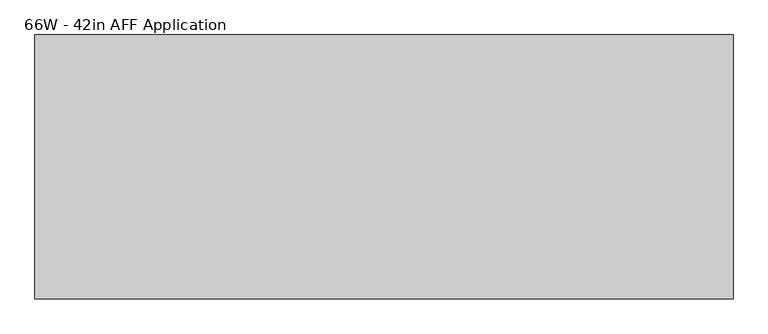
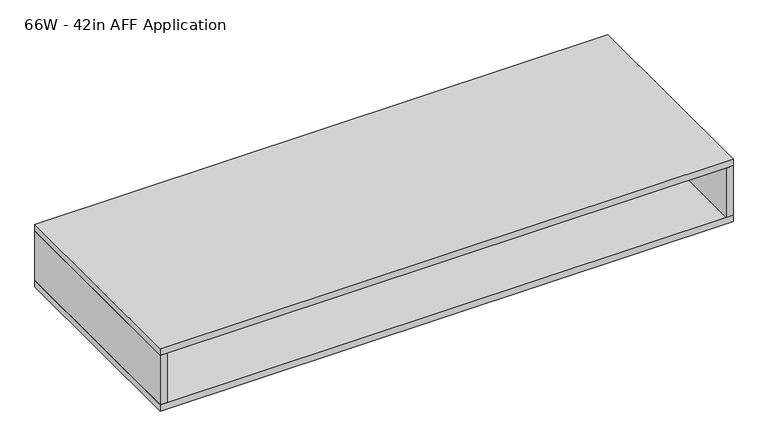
"""IFC4 building model written with IfcOpenShell, lengths in millimetres: furniture geometry, Steelcase - Duo Storage - For Use with Top Cap Mounted Storage - Slim : 66W - 42in AFF Application."""

import ifcopenshell
import ifcopenshell.guid

model = None  # the IFC model being written
_history = None  # IfcOwnerHistory: only IFC2X3 demands one
_inside = {}  # id of a spatial element -> (the spatial element, [elements in it])
_under = {}  # id of a project, library or spatial element -> (it, [spatial elements below it])
_declared = {}  # id of a project -> (the project, [libraries it declares])
_typed = {}  # id of a type object -> (the type object, [elements of that type])
_made_of = {}  # id of a material, layer set ... -> (it, [elements and type objects made of it])


def new_model(schema):
    """Start an empty IFC model of exactly this schema.

    Asked for "IFC4X3", IfcOpenShell would pick the latest addendum, in which some entities
    have other attributes; the version numbers below select the first issue.
    IFC2X3 requires an IfcOwnerHistory on every rooted entity: one is made here for all.
    """
    global model, _history
    if schema == "IFC4X3":
        model = ifcopenshell.file(schema_version=(4, 3, 0, 0))
    else:
        model = ifcopenshell.file(schema=schema)
    _inside.clear()
    _under.clear()
    _declared.clear()
    _typed.clear()
    _made_of.clear()
    _history = None
    if model.schema == "IFC2X3":
        org = make("IfcOrganization", Name="unknown")
        user = make(
            "IfcPersonAndOrganization",
            ThePerson=make("IfcPerson", FamilyName="unknown"),
            TheOrganization=org,
        )
        app = make(
            "IfcApplication",
            ApplicationDeveloper=org,
            Version="unknown",
            ApplicationFullName="unknown",
            ApplicationIdentifier="unknown",
        )
        _history = make(
            "IfcOwnerHistory",
            OwningUser=user,
            OwningApplication=app,
            ChangeAction="ADDED",
            CreationDate=0,
        )
    return model


def make(cls, **values):
    """One entity of the class cls with the attributes given. An attribute that is None is left unset."""
    return model.create_entity(
        cls, **{name: value for name, value in values.items() if value is not None}
    )


def rooted(cls, **values):
    """An entity with a GlobalId (a new one), such as an element, a storey or a relation."""
    return make(cls, GlobalId=ifcopenshell.guid.new(), OwnerHistory=_history, **values)


def si_unit(unit_type, name, prefix=None):
    """IfcSIUnit, for example si_unit("LENGTHUNIT", "METRE", prefix="MILLI")."""
    return make("IfcSIUnit", UnitType=unit_type, Prefix=prefix, Name=name)


def assignment(units):
    """IfcUnitAssignment: the units of a project."""
    return None if units is None else make("IfcUnitAssignment", Units=units)


def point(xyz):
    """IfcCartesianPoint."""
    return None if xyz is None else make("IfcCartesianPoint", Coordinates=xyz)


def direction(xyz):
    """IfcDirection."""
    return None if xyz is None else make("IfcDirection", DirectionRatios=xyz)


def frame(location, z_axis=None, x_axis=None):
    """IfcAxis2Placement3D, a coordinate frame: its origin and axes. An axis left out is left unset."""
    return make(
        "IfcAxis2Placement3D",
        Location=point(location),
        Axis=direction(z_axis),
        RefDirection=direction(x_axis),
    )


def origin():
    """The frame at (0, 0, 0) with its axes left unset."""
    return frame((0.0, 0.0, 0.0))


def place(relative_to, where):
    """IfcLocalPlacement: puts the frame where relative to a parent placement (None: the world)."""
    return make(
        "IfcLocalPlacement", PlacementRelTo=relative_to, RelativePlacement=where
    )


def context(
    kind, dimensions, precision=None, world=None, true_north=None, identifier=None
):
    """IfcGeometricRepresentationContext, for example the 3D "Model" context."""
    return make(
        "IfcGeometricRepresentationContext",
        ContextIdentifier=identifier,
        ContextType=kind,
        CoordinateSpaceDimension=dimensions,
        Precision=precision,
        WorldCoordinateSystem=world,
        TrueNorth=true_north,
    )


def project(units=None, contexts=None):
    """IfcProject with its units and contexts."""
    return rooted(
        "IfcProject",
        Name="project",
        RepresentationContexts=contexts,
        UnitsInContext=assignment(units),
    )


def spatial(cls, under=None, at=None, **own):
    """A site, building, storey or space (cls), placed at a placement, below another one or the project."""
    s = rooted(cls, ObjectPlacement=at, **own)
    if under is not None:
        _under.setdefault(under.id(), (under, []))[1].append(s)
    return s


def polyline(points):
    """IfcPolyline through the points."""
    return make("IfcPolyline", Points=[point(p) for p in points])


def outline(outer, holes=None, kind="AREA"):
    """IfcArbitraryClosedProfileDef: a profile drawn as a closed curve; with holes, ...WithVoids."""
    if holes is None:
        return make("IfcArbitraryClosedProfileDef", ProfileType=kind, OuterCurve=outer)
    return make(
        "IfcArbitraryProfileDefWithVoids",
        ProfileType=kind,
        OuterCurve=outer,
        InnerCurves=holes,
    )


def extrude(swept, where, along, depth):
    """IfcExtrudedAreaSolid: the profile swept, set in the frame where, extruded along a direction by depth."""
    return make(
        "IfcExtrudedAreaSolid",
        SweptArea=swept,
        Position=where,
        ExtrudedDirection=direction(along),
        Depth=depth,
    )


def shape(context_of_items, identifier, shape_type, items):
    """IfcShapeRepresentation: the items that make up one representation, for example the "Body"."""
    return make(
        "IfcShapeRepresentation",
        ContextOfItems=context_of_items,
        RepresentationIdentifier=identifier,
        RepresentationType=shape_type,
        Items=items,
    )


def source(mapping_origin, context_of_items, identifier, shape_type, items):
    """IfcRepresentationMap: a shape defined once, which mapped items show again and again."""
    return make(
        "IfcRepresentationMap",
        MappingOrigin=mapping_origin,
        MappedRepresentation=shape(context_of_items, identifier, shape_type, items),
    )


def transform(
    local_origin,
    x_axis=None,
    y_axis=None,
    z_axis=None,
    scale=None,
    scale2=None,
    scale3=None,
    uniform=True,
):
    """IfcCartesianTransformationOperator3D, or its non-uniform kind. x_axis, y_axis, z_axis: its Axis1, 2, 3."""
    if uniform:
        return make(
            "IfcCartesianTransformationOperator3D",
            Axis1=direction(x_axis),
            Axis2=direction(y_axis),
            LocalOrigin=point(local_origin),
            Scale=scale,
            Axis3=direction(z_axis),
        )
    return make(
        "IfcCartesianTransformationOperator3DnonUniform",
        Axis1=direction(x_axis),
        Axis2=direction(y_axis),
        LocalOrigin=point(local_origin),
        Scale=scale,
        Axis3=direction(z_axis),
        Scale2=scale2,
        Scale3=scale3,
    )


def mapped(mapping_source, mapping_target):
    """IfcMappedItem: shows the shape of a source again, moved by a transform."""
    return make(
        "IfcMappedItem", MappingSource=mapping_source, MappingTarget=mapping_target
    )


def made_of(thing, what):
    """Note that an element or type object is made of a material, layer set ...; save() writes the relation."""
    if what is not None:
        _made_of.setdefault(what.id(), (what, []))[1].append(thing)
    return thing


def element(
    cls,
    number,
    at=None,
    inside=None,
    cuts=None,
    type_object=None,
    material=None,
    context=None,
    identifier="Body",
    shape_type=None,
    held_by="IfcProductDefinitionShape",
    body=None,
    shapes=None,
    **own,
):
    """One element of the class cls, such as IfcWall. Its Tag is "e" and its number.

    at: its placement. inside: the storey or other place that contains it. cuts: it is an
    opening in that element (IfcRelVoidsElement). A single representation is given by context,
    identifier, shape_type and body (its items); several are given by shapes. held_by: the class
    of the entity that holds the representations. save() writes the other relations.
    """
    e = rooted(cls, Tag="e%d" % number, ObjectPlacement=at, **own)
    if body is not None:
        shapes = [shape(context, identifier, shape_type, body)]
    if shapes is not None:
        e.Representation = make(held_by, Representations=shapes)
    if inside is not None:
        _inside.setdefault(inside.id(), (inside, []))[1].append(e)
    if cuts is not None:
        rooted(
            "IfcRelVoidsElement", RelatingBuildingElement=cuts, RelatedOpeningElement=e
        )
    if type_object is not None:
        _typed.setdefault(type_object.id(), (type_object, []))[1].append(e)
    return made_of(e, material)


def aggregate(whole, parts):
    """IfcRelAggregates: a whole, such as a stair, and the parts it consists of."""
    return rooted("IfcRelAggregates", RelatingObject=whole, RelatedObjects=parts)


def save(model, path):
    """Write the relations noted so far, then the file.

    IfcRelAggregates (storeys below a building ...), IfcRelContainedInSpatialStructure (elements
    in a storey), IfcRelDefinesByType, IfcRelAssociatesMaterial and IfcRelDeclares: one each for
    every whole, place, type object, material and project.
    """
    for whole, parts in _under.values():
        aggregate(whole, parts)
    for where, things in _inside.values():
        rooted(
            "IfcRelContainedInSpatialStructure",
            RelatedElements=things,
            RelatingStructure=where,
        )
    for kind, things in _typed.values():
        rooted("IfcRelDefinesByType", RelatedObjects=things, RelatingType=kind)
    for what, things in _made_of.values():
        rooted("IfcRelAssociatesMaterial", RelatedObjects=things, RelatingMaterial=what)
    for by, libraries in _declared.values():
        rooted("IfcRelDeclares", RelatingContext=by, RelatedDefinitions=libraries)
    model.write(path)


def furniture_66w_42in_aff_application_57f57bfd(model_context):
    return source(origin(), model_context, "Body", "SweptSolid", [
        extrude(outline(polyline([(1656.0799516, 317.4999523), (1676.4, 317.4999523), (1676.4, -317.5000477), (1656.0799516, -317.5000477), (1656.0799516, 317.4999523)])), frame((0.0, 0.0, 1085.0879793), z_axis=(0.0, 0.0, 1.0), x_axis=(1.0, 0.0, 0.0)), (0.0, 0.0, 1.0), 152.6539882),
        extrude(outline(polyline([(1676.4, 317.4999523), (1676.4, -317.5000477), (0.0, -317.5000477), (0.0, 317.4999523), (1676.4, 317.4999523)])), frame((0.0, 0.0, 1237.7419674), z_axis=(0.0, 0.0, 1.0), x_axis=(1.0, 0.0, 0.0)), (0.0, 0.0, 1.0), 20.3200326),
        extrude(outline(polyline([(1656.0799516, 11.303), (1656.0799516, -11.303), (20.3199129, -11.303), (20.3199129, 11.303), (1656.0799516, 11.303)])), frame((0.0, 0.0, 1085.0879793), z_axis=(0.0, 0.0, 1.0), x_axis=(1.0, 0.0, 0.0)), (0.0, 0.0, 1.0), 152.6539882),
        extrude(outline(polyline([(20.3199129, 317.4999523), (20.3199129, -317.5000477), (0.0, -317.5000477), (0.0, 317.4999523), (20.3199129, 317.4999523)])), frame((0.0, 0.0, 1085.0879793), z_axis=(0.0, 0.0, 1.0), x_axis=(1.0, 0.0, 0.0)), (0.0, 0.0, 1.0), 152.6539882),
        extrude(outline(polyline([(1676.4, 317.4999523), (1676.4, -317.5000477), (0.0, -317.5000477), (0.0, 317.4999523), (1676.4, 317.4999523)])), frame((0.0, 0.0, 1064.768), z_axis=(0.0, 0.0, 1.0), x_axis=(1.0, 0.0, 0.0)), (0.0, 0.0, 1.0), 20.3199793),
    ])


if __name__ == "__main__":
    model = new_model("IFC4")
    model_context = context("Model", 3, world=origin())
    ifc_project = project(units=[si_unit("LENGTHUNIT", "METRE", prefix="MILLI")], contexts=[model_context])
    site = spatial("IfcSite", under=ifc_project)
    building = spatial("IfcBuilding", under=site)
    placement = place(None, origin())
    furniture_66w_42in_aff_application_shape = furniture_66w_42in_aff_application_57f57bfd(model_context)
    element("IfcFurniture", 1, ObjectType="Steelcase - Duo Storage - For Use with Top Cap Mounted Storage - Slim : 66W - 42in AFF Application", at=placement, inside=building, context=model_context, shape_type="MappedRepresentation", body=[
        mapped(furniture_66w_42in_aff_application_shape, transform((0.0, 0.0, 0.0), x_axis=(1.0, 0.0, 0.0), y_axis=(0.0, 1.0, 0.0), z_axis=(0.0, 0.0, 1.0))),
    ])
    save(model, "model.ifc")
